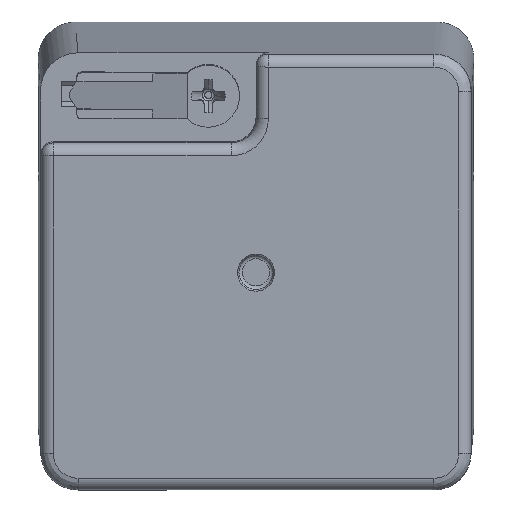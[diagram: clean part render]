
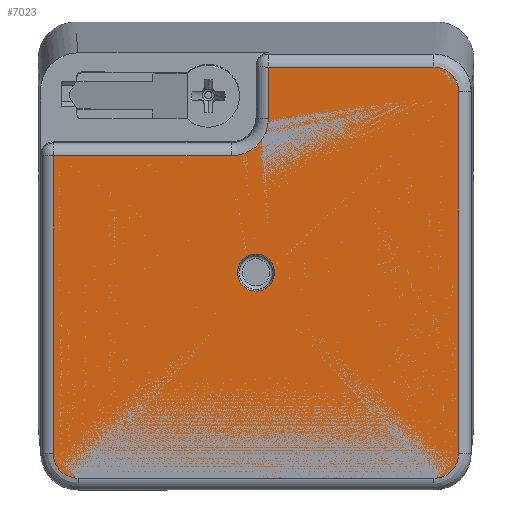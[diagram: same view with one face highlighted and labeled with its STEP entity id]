
A CAD part, top view. The second image highlights one B-rep face of the part: STEP entity #7023.
In plain terms, the highlighted planar face has unit normal (0, -0.05, 0.999) as drawn and (0, 0, -1) by its records, which use the part's own axes.
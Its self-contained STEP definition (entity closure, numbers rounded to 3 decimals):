
#4232=ELLIPSE('',#39639,2.,2.);
#4233=ELLIPSE('',#39640,2.,2.);
#4234=ELLIPSE('',#39641,2.,2.);
#5274=CIRCLE('',#39638,3.);
#5275=CIRCLE('',#39642,1.5);
#7023=ADVANCED_FACE('',(#9565,#9566),#8410,.T.);
#8410=PLANE('',#39643);
#9565=FACE_BOUND('',#11487,.T.);
#9566=FACE_BOUND('',#11488,.T.);
#11487=EDGE_LOOP('',(#19769,#19770,#19771,#19772,#19773,#19774,#19775,#19776,
#19777,#19778));
#11488=EDGE_LOOP('',(#19779));
#19769=ORIENTED_EDGE('',*,*,#29257,.T.);
#19770=ORIENTED_EDGE('',*,*,#29258,.T.);
#19771=ORIENTED_EDGE('',*,*,#29259,.T.);
#19772=ORIENTED_EDGE('',*,*,#29260,.T.);
#19773=ORIENTED_EDGE('',*,*,#29261,.T.);
#19774=ORIENTED_EDGE('',*,*,#29262,.T.);
#19775=ORIENTED_EDGE('',*,*,#29263,.T.);
#19776=ORIENTED_EDGE('',*,*,#29264,.T.);
#19777=ORIENTED_EDGE('',*,*,#29265,.T.);
#19778=ORIENTED_EDGE('',*,*,#29266,.T.);
#19779=ORIENTED_EDGE('',*,*,#29267,.T.);
#24737=VERTEX_POINT('',#60915);
#24738=VERTEX_POINT('',#60916);
#24739=VERTEX_POINT('',#60918);
#24740=VERTEX_POINT('',#60920);
#24741=VERTEX_POINT('',#60922);
#24742=VERTEX_POINT('',#60924);
#24743=VERTEX_POINT('',#60926);
#24744=VERTEX_POINT('',#60928);
#24745=VERTEX_POINT('',#60930);
#24746=VERTEX_POINT('',#60932);
#24747=VERTEX_POINT('',#60935);
#29257=EDGE_CURVE('',#24737,#24738,#5274,.T.);
#29258=EDGE_CURVE('',#24738,#24739,#32931,.T.);
#29259=EDGE_CURVE('',#24739,#24740,#32932,.T.);
#29260=EDGE_CURVE('',#24740,#24741,#4232,.T.);
#29261=EDGE_CURVE('',#24741,#24742,#32933,.T.);
#29262=EDGE_CURVE('',#24742,#24743,#4233,.T.);
#29263=EDGE_CURVE('',#24743,#24744,#32934,.T.);
#29264=EDGE_CURVE('',#24744,#24745,#4234,.T.);
#29265=EDGE_CURVE('',#24745,#24746,#32935,.T.);
#29266=EDGE_CURVE('',#24746,#24737,#32936,.T.);
#29267=EDGE_CURVE('',#24747,#24747,#5275,.T.);
#32931=LINE('',#60917,#36339);
#32932=LINE('',#60919,#36340);
#32933=LINE('',#60923,#36341);
#32934=LINE('',#60927,#36342);
#32935=LINE('',#60931,#36343);
#32936=LINE('',#60933,#36344);
#36339=VECTOR('',#48359,1.);
#36340=VECTOR('',#48360,1.);
#36341=VECTOR('',#48363,1.);
#36342=VECTOR('',#48366,1.);
#36343=VECTOR('',#48369,1.);
#36344=VECTOR('',#48370,1.);
#39638=AXIS2_PLACEMENT_3D('',#60914,#48357,#48358);
#39639=AXIS2_PLACEMENT_3D('',#60921,#48361,#48362);
#39640=AXIS2_PLACEMENT_3D('',#60925,#48364,#48365);
#39641=AXIS2_PLACEMENT_3D('',#60929,#48367,#48368);
#39642=AXIS2_PLACEMENT_3D('',#60934,#48371,#48372);
#39643=AXIS2_PLACEMENT_3D('',#60936,#48373,#48374);
#48357=DIRECTION('',(0.,0.,1.));
#48358=DIRECTION('',(-1.,0.,0.));
#48359=DIRECTION('',(-1.,0.,0.));
#48360=DIRECTION('',(0.,1.,0.));
#48361=DIRECTION('',(0.,0.,-1.));
#48362=DIRECTION('',(-0.707,0.707,0.));
#48363=DIRECTION('',(1.,0.,0.));
#48364=DIRECTION('',(0.,0.,-1.));
#48365=DIRECTION('',(-0.707,-0.707,0.));
#48366=DIRECTION('',(0.,-1.,0.));
#48367=DIRECTION('',(0.,0.,-1.));
#48368=DIRECTION('',(-0.707,0.707,0.));
#48369=DIRECTION('',(-1.,0.,0.));
#48370=DIRECTION('',(0.,1.,0.));
#48371=DIRECTION('',(0.,0.,1.));
#48372=DIRECTION('',(1.,0.,0.));
#48373=DIRECTION('',(0.,0.,-1.));
#48374=DIRECTION('',(1.,0.,0.));
#60914=CARTESIAN_POINT('',(-2.,-12.45,-50.3));
#60915=CARTESIAN_POINT('',(1.,-12.45,-50.3));
#60916=CARTESIAN_POINT('',(-2.,-9.45,-50.3));
#60917=CARTESIAN_POINT('',(17.85,-9.45,-50.3));
#60918=CARTESIAN_POINT('',(-16.385,-9.45,-50.3));
#60919=CARTESIAN_POINT('',(-16.385,17.85,-50.3));
#60920=CARTESIAN_POINT('',(-16.385,14.635,-50.3));
#60921=CARTESIAN_POINT('',(-14.385,14.635,-50.3));
#60922=CARTESIAN_POINT('',(-14.385,16.635,-50.3));
#60923=CARTESIAN_POINT('',(17.85,16.635,-50.3));
#60924=CARTESIAN_POINT('',(14.385,16.635,-50.3));
#60925=CARTESIAN_POINT('',(14.385,14.635,-50.3));
#60926=CARTESIAN_POINT('',(16.385,14.635,-50.3));
#60927=CARTESIAN_POINT('',(16.385,17.85,-50.3));
#60928=CARTESIAN_POINT('',(16.385,-14.635,-50.3));
#60929=CARTESIAN_POINT('',(14.385,-14.635,-50.3));
#60930=CARTESIAN_POINT('',(14.385,-16.635,-50.3));
#60931=CARTESIAN_POINT('',(17.85,-16.635,-50.3));
#60932=CARTESIAN_POINT('',(1.,-16.635,-50.3));
#60933=CARTESIAN_POINT('',(1.,17.85,-50.3));
#60934=CARTESIAN_POINT('',(0.,0.,-50.3));
#60935=CARTESIAN_POINT('',(1.5,0.,-50.3));
#60936=CARTESIAN_POINT('',(17.85,17.85,-50.3));
